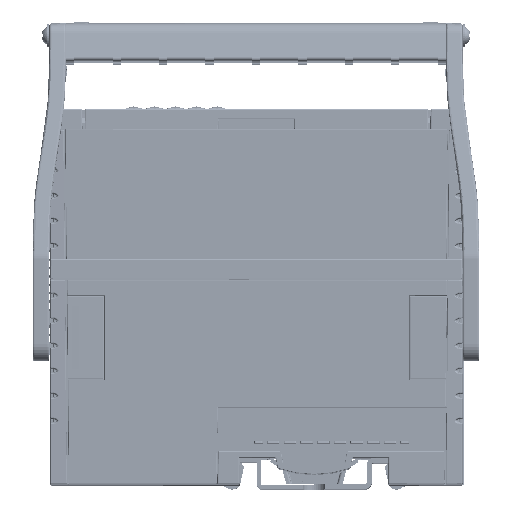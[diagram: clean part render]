
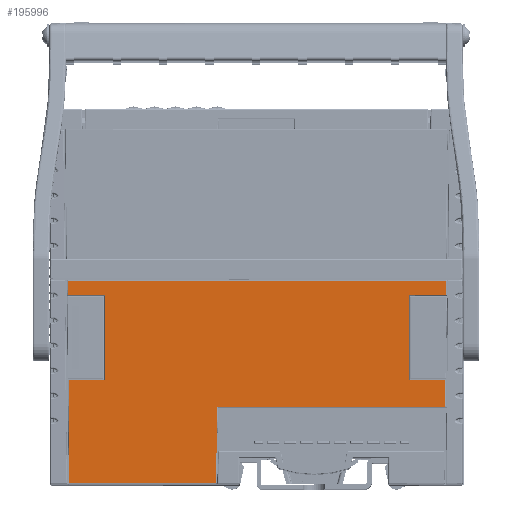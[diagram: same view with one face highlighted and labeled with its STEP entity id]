
A CAD part, top view. The second image highlights one B-rep face of the part: STEP entity #195996.
In plain terms, the highlighted planar face has unit normal (0, 0, 1).
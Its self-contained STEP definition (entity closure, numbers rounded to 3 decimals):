
#21518=PLANE('',#208592);
#25915=FACE_OUTER_BOUND('',#37569,.T.);
#37569=EDGE_LOOP('',(#138253,#138254,#138255,#138256,#138257,#138258,#138259,
#138260,#138261,#138262,#138263,#138264,#138265,#138266));
#50375=LINE('',#290592,#64729);
#50512=LINE('',#290955,#64866);
#50674=LINE('',#291529,#65028);
#50676=LINE('',#291538,#65030);
#50677=LINE('',#291541,#65031);
#50680=LINE('',#291547,#65034);
#50682=LINE('',#291552,#65036);
#50685=LINE('',#291560,#65039);
#50687=LINE('',#291568,#65041);
#50689=LINE('',#291574,#65043);
#50690=LINE('',#291604,#65044);
#50691=LINE('',#291606,#65045);
#50693=LINE('',#291609,#65047);
#50694=LINE('',#291610,#65048);
#64729=VECTOR('',#232692,3.489);
#64866=VECTOR('',#232985,18.258);
#65028=VECTOR('',#233483,6.365);
#65030=VECTOR('',#233491,20.422);
#65031=VECTOR('',#233496,8.908);
#65034=VECTOR('',#233503,8.727);
#65036=VECTOR('',#233509,54.575);
#65039=VECTOR('',#233518,35.115);
#65041=VECTOR('',#233524,20.422);
#65043=VECTOR('',#233532,8.727);
#65044=VECTOR('',#233541,24.621);
#65045=VECTOR('',#233544,8.908);
#65047=VECTOR('',#233548,3.489);
#65048=VECTOR('',#233549,90.708);
#87670=VERTEX_POINT('',#289925);
#87910=VERTEX_POINT('',#290589);
#87911=VERTEX_POINT('',#290591);
#88028=VERTEX_POINT('',#290953);
#88029=VERTEX_POINT('',#290954);
#88176=VERTEX_POINT('',#291493);
#88179=VERTEX_POINT('',#291526);
#88180=VERTEX_POINT('',#291528);
#88183=VERTEX_POINT('',#291535);
#88184=VERTEX_POINT('',#291537);
#88188=VERTEX_POINT('',#291558);
#88191=VERTEX_POINT('',#291565);
#88192=VERTEX_POINT('',#291567);
#88193=VERTEX_POINT('',#291572);
#106405=EDGE_CURVE('',#87910,#87911,#50375,.T.);
#106576=EDGE_CURVE('',#88028,#88029,#50512,.T.);
#106815=EDGE_CURVE('',#88179,#88180,#50674,.T.);
#106819=EDGE_CURVE('',#88183,#88184,#50676,.T.);
#106821=EDGE_CURVE('',#88176,#88183,#50677,.T.);
#106825=EDGE_CURVE('',#88184,#88179,#50680,.T.);
#106828=EDGE_CURVE('',#88180,#88028,#50682,.T.);
#106832=EDGE_CURVE('',#88029,#88188,#50685,.T.);
#106835=EDGE_CURVE('',#88191,#88192,#50687,.T.);
#106839=EDGE_CURVE('',#88193,#88191,#50689,.T.);
#106842=EDGE_CURVE('',#88188,#88193,#50690,.T.);
#106843=EDGE_CURVE('',#88192,#87910,#50691,.T.);
#106845=EDGE_CURVE('',#87670,#88176,#50693,.T.);
#106846=EDGE_CURVE('',#87911,#87670,#50694,.T.);
#138253=ORIENTED_EDGE('',*,*,#106842,.F.);
#138254=ORIENTED_EDGE('',*,*,#106832,.F.);
#138255=ORIENTED_EDGE('',*,*,#106576,.F.);
#138256=ORIENTED_EDGE('',*,*,#106828,.F.);
#138257=ORIENTED_EDGE('',*,*,#106815,.F.);
#138258=ORIENTED_EDGE('',*,*,#106825,.F.);
#138259=ORIENTED_EDGE('',*,*,#106819,.F.);
#138260=ORIENTED_EDGE('',*,*,#106821,.F.);
#138261=ORIENTED_EDGE('',*,*,#106845,.F.);
#138262=ORIENTED_EDGE('',*,*,#106846,.F.);
#138263=ORIENTED_EDGE('',*,*,#106405,.F.);
#138264=ORIENTED_EDGE('',*,*,#106843,.F.);
#138265=ORIENTED_EDGE('',*,*,#106835,.F.);
#138266=ORIENTED_EDGE('',*,*,#106839,.F.);
#195996=ADVANCED_FACE('',(#25915),#21518,.T.);
#208592=AXIS2_PLACEMENT_3D('',#291608,#233546,#233547);
#232692=DIRECTION('',(-0.009,1.,0.));
#232985=DIRECTION('',(-0.017,-1.,0.));
#233483=DIRECTION('',(-0.009,-1.,0.));
#233491=DIRECTION('',(0.,-1.,0.));
#233496=DIRECTION('',(-1.,0.,0.));
#233503=DIRECTION('',(1.,0.,0.));
#233509=DIRECTION('',(-1.,0.,0.));
#233518=DIRECTION('',(-1.,0.,0.));
#233524=DIRECTION('',(0.,1.,0.));
#233532=DIRECTION('',(1.,0.,0.));
#233541=DIRECTION('',(-0.009,1.,0.));
#233544=DIRECTION('',(-1.,0.,0.));
#233546=DIRECTION('center_axis',(0.,0.,
1.));
#233547=DIRECTION('ref_axis',(1.,0.,0.));
#233548=DIRECTION('',(-0.009,-1.,0.));
#233549=DIRECTION('',(1.,0.,0.));
#289925=CARTESIAN_POINT('',(45.472,6.35,43.4));
#290589=CARTESIAN_POINT('',(-45.205,2.862,43.4));
#290591=CARTESIAN_POINT('',(-45.236,6.35,43.4));
#290592=CARTESIAN_POINT('',(-45.205,2.862,43.4));
#290953=CARTESIAN_POINT('',(-9.372,-23.926,43.4));
#290954=CARTESIAN_POINT('',(-9.69,-42.18,43.4));
#290955=CARTESIAN_POINT('',(-9.372,-23.926,43.4));
#291493=CARTESIAN_POINT('',(45.441,2.862,43.4));
#291526=CARTESIAN_POINT('',(45.26,-17.561,43.4));
#291528=CARTESIAN_POINT('',(45.203,-23.926,43.4));
#291529=CARTESIAN_POINT('',(45.26,-17.561,43.4));
#291535=CARTESIAN_POINT('',(36.533,2.862,43.4));
#291537=CARTESIAN_POINT('',(36.533,-17.561,43.4));
#291538=CARTESIAN_POINT('',(36.533,2.862,43.4));
#291541=CARTESIAN_POINT('',(45.441,2.862,43.4));
#291547=CARTESIAN_POINT('',(36.533,-17.561,43.4));
#291552=CARTESIAN_POINT('',(45.203,-23.926,43.4));
#291558=CARTESIAN_POINT('',(-44.805,-42.18,43.4));
#291560=CARTESIAN_POINT('',(-9.69,-42.18,43.4));
#291565=CARTESIAN_POINT('',(-36.297,-17.561,43.4));
#291567=CARTESIAN_POINT('',(-36.297,2.862,43.4));
#291568=CARTESIAN_POINT('',(-36.297,-17.561,43.4));
#291572=CARTESIAN_POINT('',(-45.024,-17.561,43.4));
#291574=CARTESIAN_POINT('',(-45.024,-17.561,43.4));
#291604=CARTESIAN_POINT('',(-44.805,-42.18,43.4));
#291606=CARTESIAN_POINT('',(-36.297,2.862,43.4));
#291608=CARTESIAN_POINT('Origin',(0.74,-1.318,43.4));
#291609=CARTESIAN_POINT('',(45.472,6.35,43.4));
#291610=CARTESIAN_POINT('',(-45.236,6.35,43.4));
